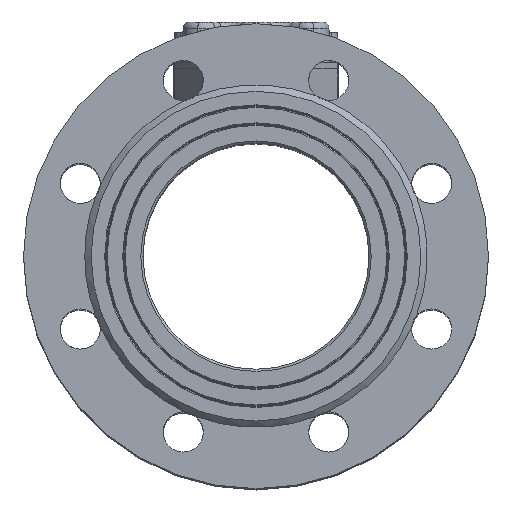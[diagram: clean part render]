
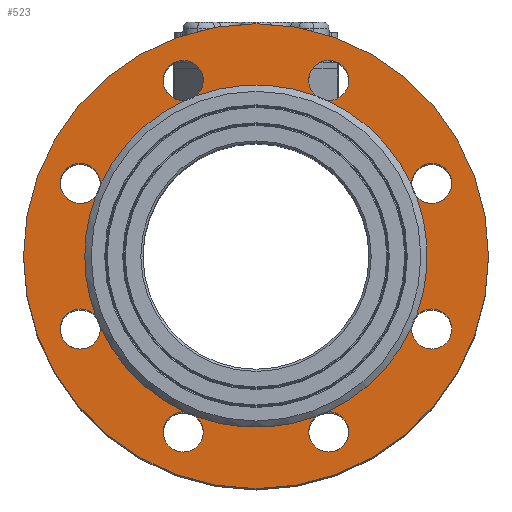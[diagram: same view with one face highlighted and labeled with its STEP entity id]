
A CAD part, top view. The second image highlights one B-rep face of the part: STEP entity #523.
In plain terms, the highlighted planar face has unit normal (0, 0, 1).
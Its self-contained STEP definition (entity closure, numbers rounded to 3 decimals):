
#523 = ADVANCED_FACE( '', ( #1308, #1309 ), #1310, .T. );
#1308 = FACE_BOUND( '', #3211, .T. );
#1309 = FACE_OUTER_BOUND( '', #3212, .T. );
#1310 = PLANE( '', #3213 );
#3211 = EDGE_LOOP( '', ( #7726, #7727, #7728, #7729, #7730, #7731, #7732, #7733, #7734, #7735, #7736, #7737, #7738, #7739, #7740, #7741 ) );
#3212 = EDGE_LOOP( '', ( #7742 ) );
#3213 = AXIS2_PLACEMENT_3D( '', #7743, #7744, #7745 );
#7726 = ORIENTED_EDGE( '', *, *, #10335, .T. );
#7727 = ORIENTED_EDGE( '', *, *, #10336, .T. );
#7728 = ORIENTED_EDGE( '', *, *, #10265, .T. );
#7729 = ORIENTED_EDGE( '', *, *, #10337, .T. );
#7730 = ORIENTED_EDGE( '', *, *, #10338, .T. );
#7731 = ORIENTED_EDGE( '', *, *, #10339, .T. );
#7732 = ORIENTED_EDGE( '', *, *, #10340, .T. );
#7733 = ORIENTED_EDGE( '', *, *, #10341, .T. );
#7734 = ORIENTED_EDGE( '', *, *, #10342, .T. );
#7735 = ORIENTED_EDGE( '', *, *, #10343, .T. );
#7736 = ORIENTED_EDGE( '', *, *, #10344, .T. );
#7737 = ORIENTED_EDGE( '', *, *, #10345, .T. );
#7738 = ORIENTED_EDGE( '', *, *, #10346, .T. );
#7739 = ORIENTED_EDGE( '', *, *, #10347, .T. );
#7740 = ORIENTED_EDGE( '', *, *, #10348, .T. );
#7741 = ORIENTED_EDGE( '', *, *, #10349, .T. );
#7742 = ORIENTED_EDGE( '', *, *, #10350, .F. );
#7743 = CARTESIAN_POINT( '', ( 0., -110., 357. ) );
#7744 = DIRECTION( '', ( 0., 0., 1. ) );
#7745 = DIRECTION( '', ( 1., 0., 0. ) );
#10265 = EDGE_CURVE( '', #11410, #11409, #11412, .T. );
#10335 = EDGE_CURVE( '', #11530, #11531, #11532, .T. );
#10336 = EDGE_CURVE( '', #11531, #11410, #11533, .T. );
#10337 = EDGE_CURVE( '', #11409, #11534, #11535, .T. );
#10338 = EDGE_CURVE( '', #11534, #11536, #11537, .T. );
#10339 = EDGE_CURVE( '', #11536, #11538, #11539, .T. );
#10340 = EDGE_CURVE( '', #11538, #11540, #11541, .T. );
#10341 = EDGE_CURVE( '', #11540, #11368, #11542, .T. );
#10342 = EDGE_CURVE( '', #11368, #11369, #11543, .T. );
#10343 = EDGE_CURVE( '', #11369, #11544, #11545, .T. );
#10344 = EDGE_CURVE( '', #11544, #11546, #11547, .T. );
#10345 = EDGE_CURVE( '', #11546, #11548, #11549, .T. );
#10346 = EDGE_CURVE( '', #11548, #11550, #11551, .T. );
#10347 = EDGE_CURVE( '', #11550, #11552, #11553, .T. );
#10348 = EDGE_CURVE( '', #11552, #11554, #11555, .T. );
#10349 = EDGE_CURVE( '', #11554, #11530, #11556, .T. );
#10350 = EDGE_CURVE( '', #11557, #11557, #11558, .T. );
#11368 = VERTEX_POINT( '', #13015 );
#11369 = VERTEX_POINT( '', #13016 );
#11409 = VERTEX_POINT( '', #13075 );
#11410 = VERTEX_POINT( '', #13076 );
#11412 = CIRCLE( '', #13078, 9.5 );
#11530 = VERTEX_POINT( '', #13333 );
#11531 = VERTEX_POINT( '', #13334 );
#11532 = CIRCLE( '', #13335, 9.5 );
#11533 = CIRCLE( '', #13336, 81. );
#11534 = VERTEX_POINT( '', #13337 );
#11535 = CIRCLE( '', #13338, 81. );
#11536 = VERTEX_POINT( '', #13339 );
#11537 = CIRCLE( '', #13340, 9.5 );
#11538 = VERTEX_POINT( '', #13341 );
#11539 = CIRCLE( '', #13342, 81. );
#11540 = VERTEX_POINT( '', #13343 );
#11541 = CIRCLE( '', #13344, 9.5 );
#11542 = CIRCLE( '', #13345, 81. );
#11543 = CIRCLE( '', #13346, 9.5 );
#11544 = VERTEX_POINT( '', #13347 );
#11545 = CIRCLE( '', #13348, 81. );
#11546 = VERTEX_POINT( '', #13349 );
#11547 = CIRCLE( '', #13350, 9.5 );
#11548 = VERTEX_POINT( '', #13351 );
#11549 = CIRCLE( '', #13352, 81. );
#11550 = VERTEX_POINT( '', #13353 );
#11551 = CIRCLE( '', #13354, 9.5 );
#11552 = VERTEX_POINT( '', #13355 );
#11553 = CIRCLE( '', #13356, 81. );
#11554 = VERTEX_POINT( '', #13357 );
#11555 = CIRCLE( '', #13358, 9.5 );
#11556 = CIRCLE( '', #13359, 81. );
#11557 = VERTEX_POINT( '', #13360 );
#11558 = CIRCLE( '', #13361, 110. );
#13015 = CARTESIAN_POINT( '', ( -75.891, 28.312, 357. ) );
#13016 = CARTESIAN_POINT( '', ( -73.683, 33.643, 357. ) );
#13075 = CARTESIAN_POINT( '', ( 28.312, -75.891, 357. ) );
#13076 = CARTESIAN_POINT( '', ( 33.643, -73.683, 357. ) );
#13078 = AXIS2_PLACEMENT_3D( '', #16042, #16043, #16044 );
#13333 = CARTESIAN_POINT( '', ( 75.891, -28.312, 357. ) );
#13334 = CARTESIAN_POINT( '', ( 73.683, -33.643, 357. ) );
#13335 = AXIS2_PLACEMENT_3D( '', #16141, #16142, #16143 );
#13336 = AXIS2_PLACEMENT_3D( '', #16144, #16145, #16146 );
#13337 = CARTESIAN_POINT( '', ( -28.312, -75.891, 357. ) );
#13338 = AXIS2_PLACEMENT_3D( '', #16147, #16148, #16149 );
#13339 = CARTESIAN_POINT( '', ( -33.643, -73.683, 357. ) );
#13340 = AXIS2_PLACEMENT_3D( '', #16150, #16151, #16152 );
#13341 = CARTESIAN_POINT( '', ( -73.683, -33.643, 357. ) );
#13342 = AXIS2_PLACEMENT_3D( '', #16153, #16154, #16155 );
#13343 = CARTESIAN_POINT( '', ( -75.891, -28.312, 357. ) );
#13344 = AXIS2_PLACEMENT_3D( '', #16156, #16157, #16158 );
#13345 = AXIS2_PLACEMENT_3D( '', #16159, #16160, #16161 );
#13346 = AXIS2_PLACEMENT_3D( '', #16162, #16163, #16164 );
#13347 = CARTESIAN_POINT( '', ( -33.643, 73.683, 357. ) );
#13348 = AXIS2_PLACEMENT_3D( '', #16165, #16166, #16167 );
#13349 = CARTESIAN_POINT( '', ( -28.312, 75.891, 357. ) );
#13350 = AXIS2_PLACEMENT_3D( '', #16168, #16169, #16170 );
#13351 = CARTESIAN_POINT( '', ( 28.312, 75.891, 357. ) );
#13352 = AXIS2_PLACEMENT_3D( '', #16171, #16172, #16173 );
#13353 = CARTESIAN_POINT( '', ( 33.643, 73.683, 357. ) );
#13354 = AXIS2_PLACEMENT_3D( '', #16174, #16175, #16176 );
#13355 = CARTESIAN_POINT( '', ( 73.683, 33.643, 357. ) );
#13356 = AXIS2_PLACEMENT_3D( '', #16177, #16178, #16179 );
#13357 = CARTESIAN_POINT( '', ( 75.891, 28.312, 357. ) );
#13358 = AXIS2_PLACEMENT_3D( '', #16180, #16181, #16182 );
#13359 = AXIS2_PLACEMENT_3D( '', #16183, #16184, #16185 );
#13360 = CARTESIAN_POINT( '', ( -110., 0., 357. ) );
#13361 = AXIS2_PLACEMENT_3D( '', #16186, #16187, #16188 );
#16042 = CARTESIAN_POINT( '', ( 34.442, -83.149, 357. ) );
#16043 = DIRECTION( '', ( 0., 0., -1. ) );
#16044 = DIRECTION( '', ( 0., -1., 0. ) );
#16141 = CARTESIAN_POINT( '', ( 83.149, -34.442, 357. ) );
#16142 = DIRECTION( '', ( 0., 0., -1. ) );
#16143 = DIRECTION( '', ( 0., -1., 0. ) );
#16144 = CARTESIAN_POINT( '', ( 0., 0., 357. ) );
#16145 = DIRECTION( '', ( 0., 0., -1. ) );
#16146 = DIRECTION( '', ( -1., 0., 0. ) );
#16147 = CARTESIAN_POINT( '', ( 0., 0., 357. ) );
#16148 = DIRECTION( '', ( 0., 0., -1. ) );
#16149 = DIRECTION( '', ( -1., 0., 0. ) );
#16150 = CARTESIAN_POINT( '', ( -34.442, -83.149, 357. ) );
#16151 = DIRECTION( '', ( 0., 0., -1. ) );
#16152 = DIRECTION( '', ( 0., -1., 0. ) );
#16153 = CARTESIAN_POINT( '', ( 0., 0., 357. ) );
#16154 = DIRECTION( '', ( 0., 0., -1. ) );
#16155 = DIRECTION( '', ( -1., 0., 0. ) );
#16156 = CARTESIAN_POINT( '', ( -83.149, -34.442, 357. ) );
#16157 = DIRECTION( '', ( 0., 0., -1. ) );
#16158 = DIRECTION( '', ( 0., -1., 0. ) );
#16159 = CARTESIAN_POINT( '', ( 0., 0., 357. ) );
#16160 = DIRECTION( '', ( 0., 0., -1. ) );
#16161 = DIRECTION( '', ( -1., 0., 0. ) );
#16162 = CARTESIAN_POINT( '', ( -83.149, 34.442, 357. ) );
#16163 = DIRECTION( '', ( 0., 0., -1. ) );
#16164 = DIRECTION( '', ( 0., -1., 0. ) );
#16165 = CARTESIAN_POINT( '', ( 0., 0., 357. ) );
#16166 = DIRECTION( '', ( 0., 0., -1. ) );
#16167 = DIRECTION( '', ( -1., 0., 0. ) );
#16168 = CARTESIAN_POINT( '', ( -34.442, 83.149, 357. ) );
#16169 = DIRECTION( '', ( 0., 0., -1. ) );
#16170 = DIRECTION( '', ( 0., -1., 0. ) );
#16171 = CARTESIAN_POINT( '', ( 0., 0., 357. ) );
#16172 = DIRECTION( '', ( 0., 0., -1. ) );
#16173 = DIRECTION( '', ( -1., 0., 0. ) );
#16174 = CARTESIAN_POINT( '', ( 34.442, 83.149, 357. ) );
#16175 = DIRECTION( '', ( 0., 0., -1. ) );
#16176 = DIRECTION( '', ( 0., -1., 0. ) );
#16177 = CARTESIAN_POINT( '', ( 0., 0., 357. ) );
#16178 = DIRECTION( '', ( 0., 0., -1. ) );
#16179 = DIRECTION( '', ( -1., 0., 0. ) );
#16180 = CARTESIAN_POINT( '', ( 83.149, 34.442, 357. ) );
#16181 = DIRECTION( '', ( 0., 0., -1. ) );
#16182 = DIRECTION( '', ( 0., -1., 0. ) );
#16183 = CARTESIAN_POINT( '', ( 0., 0., 357. ) );
#16184 = DIRECTION( '', ( 0., 0., -1. ) );
#16185 = DIRECTION( '', ( -1., 0., 0. ) );
#16186 = CARTESIAN_POINT( '', ( 0., 0., 357. ) );
#16187 = DIRECTION( '', ( 0., 0., -1. ) );
#16188 = DIRECTION( '', ( -1., 0., 0. ) );
